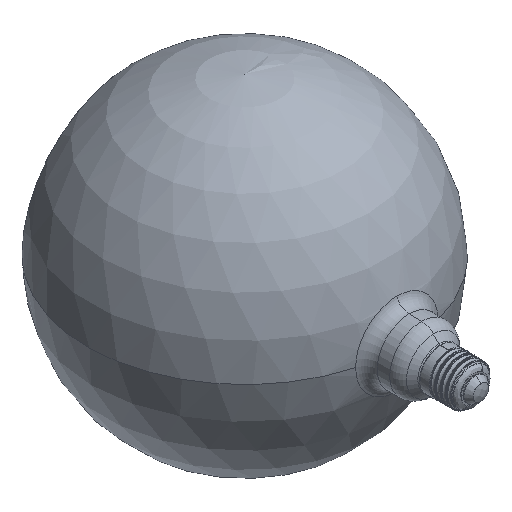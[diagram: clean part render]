
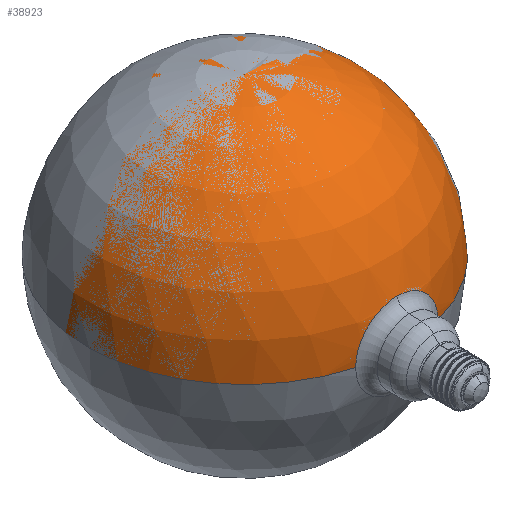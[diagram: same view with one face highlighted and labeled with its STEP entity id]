
A CAD part, isometric view. The second image highlights one B-rep face of the part: STEP entity #38923.
In plain terms, the highlighted spherical face has radius 100 mm.
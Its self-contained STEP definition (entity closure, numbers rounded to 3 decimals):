
#669 = AXIS2_PLACEMENT_3D ( 'NONE', #8746, #21541, #18413 ) ;
#1151 = CARTESIAN_POINT ( 'NONE',  ( 0., 135.928, 0. ) ) ;
#1358 = DIRECTION ( 'NONE',  ( 0., 0., 1. ) ) ;
#1575 = VERTEX_POINT ( 'NONE', #11350 ) ;
#1782 = CARTESIAN_POINT ( 'NONE',  ( 70.103, 207.241, 0. ) ) ;
#2441 = DIRECTION ( 'NONE',  ( 0., -1., 0. ) ) ;
#2565 = CARTESIAN_POINT ( 'NONE',  ( -70.103, 207.241, 0. ) ) ;
#3643 = CIRCLE ( 'NONE', #8994, 100. ) ;
#4119 = ORIENTED_EDGE ( 'NONE', *, *, #7021, .T. ) ;
#4640 = DIRECTION ( 'NONE',  ( 0., 0., -1. ) ) ;
#5252 = DIRECTION ( 'NONE',  ( -1., 0., 0. ) ) ;
#7021 = EDGE_CURVE ( 'NONE', #9254, #12148, #9654, .T. ) ;
#7130 = EDGE_CURVE ( 'NONE', #22692, #41120, #3643, .T. ) ;
#7472 = ORIENTED_EDGE ( 'NONE', *, *, #8844, .F. ) ;
#7883 = ORIENTED_EDGE ( 'NONE', *, *, #18536, .F. ) ;
#8692 = CIRCLE ( 'NONE', #669, 26.157 ) ;
#8746 = CARTESIAN_POINT ( 'NONE',  ( 0., 39.41, 0. ) ) ;
#8812 = EDGE_CURVE ( 'NONE', #1575, #41120, #8692, .T. ) ;
#8844 = EDGE_CURVE ( 'NONE', #34283, #1575, #34860, .T. ) ;
#8948 = DIRECTION ( 'NONE',  ( 0., 0., -1. ) ) ;
#8994 = AXIS2_PLACEMENT_3D ( 'NONE', #1151, #1358, #13949 ) ;
#9254 = VERTEX_POINT ( 'NONE', #1782 ) ;
#9354 = CARTESIAN_POINT ( 'NONE',  ( 0., 135.928, 0. ) ) ;
#9654 = CIRCLE ( 'NONE', #33141, 70.103 ) ;
#10146 = ORIENTED_EDGE ( 'NONE', *, *, #23904, .T. ) ;
#10183 = DIRECTION ( 'NONE',  ( 0., 0., 1. ) ) ;
#11350 = CARTESIAN_POINT ( 'NONE',  ( 0., 39.41, 26.157 ) ) ;
#12005 = CARTESIAN_POINT ( 'NONE',  ( 0., 207.241, 70.103 ) ) ;
#12148 = VERTEX_POINT ( 'NONE', #12005 ) ;
#13949 = DIRECTION ( 'NONE',  ( 1., 0., 0. ) ) ;
#14717 = CARTESIAN_POINT ( 'NONE',  ( 0., 207.241, 0. ) ) ;
#15752 = CARTESIAN_POINT ( 'NONE',  ( -26.157, 39.41, 0. ) ) ;
#15868 = DIRECTION ( 'NONE',  ( 1., 0., 0. ) ) ;
#16380 = AXIS2_PLACEMENT_3D ( 'NONE', #14717, #21012, #30883 ) ;
#17118 = DIRECTION ( 'NONE',  ( 0., -1., 0. ) ) ;
#17540 = ORIENTED_EDGE ( 'NONE', *, *, #7130, .T. ) ;
#18413 = DIRECTION ( 'NONE',  ( 0., 0., -1. ) ) ;
#18536 = EDGE_CURVE ( 'NONE', #9254, #34283, #19040, .T. ) ;
#19040 = CIRCLE ( 'NONE', #24382, 100. ) ;
#19639 = FACE_OUTER_BOUND ( 'NONE', #39584, .T. ) ;
#19758 = ORIENTED_EDGE ( 'NONE', *, *, #8812, .F. ) ;
#20254 = CARTESIAN_POINT ( 'NONE',  ( 0., 207.241, 0. ) ) ;
#20706 = CARTESIAN_POINT ( 'NONE',  ( 26.157, 39.41, 0. ) ) ;
#21012 = DIRECTION ( 'NONE',  ( 0., -1., 0. ) ) ;
#21073 = DIRECTION ( 'NONE',  ( 0., 0., -1. ) ) ;
#21541 = DIRECTION ( 'NONE',  ( 0., -1., 0. ) ) ;
#22692 = VERTEX_POINT ( 'NONE', #2565 ) ;
#23904 = EDGE_CURVE ( 'NONE', #12148, #22692, #25771, .T. ) ;
#24382 = AXIS2_PLACEMENT_3D ( 'NONE', #27087, #4640, #5252 ) ;
#25771 = CIRCLE ( 'NONE', #16380, 70.103 ) ;
#26143 = SPHERICAL_SURFACE ( 'NONE', #27022, 100. ) ;
#27022 = AXIS2_PLACEMENT_3D ( 'NONE', #9354, #10183, #15868 ) ;
#27087 = CARTESIAN_POINT ( 'NONE',  ( 0., 135.928, 0. ) ) ;
#30883 = DIRECTION ( 'NONE',  ( 0., 0., -1. ) ) ;
#33141 = AXIS2_PLACEMENT_3D ( 'NONE', #20254, #17118, #21073 ) ;
#34283 = VERTEX_POINT ( 'NONE', #20706 ) ;
#34368 = CARTESIAN_POINT ( 'NONE',  ( 0., 39.41, 0. ) ) ;
#34860 = CIRCLE ( 'NONE', #37534, 26.157 ) ;
#37534 = AXIS2_PLACEMENT_3D ( 'NONE', #34368, #2441, #8948 ) ;
#38923 = ADVANCED_FACE ( 'NONE', ( #19639 ), #26143, .T. ) ;
#39584 = EDGE_LOOP ( 'NONE', ( #4119, #10146, #17540, #19758, #7472, #7883 ) ) ;
#41120 = VERTEX_POINT ( 'NONE', #15752 ) ;
